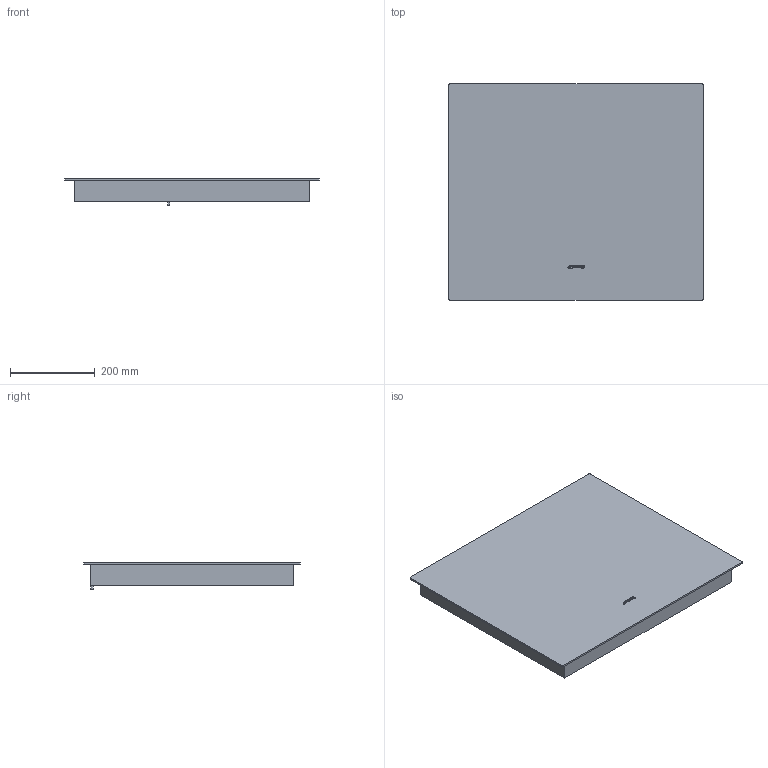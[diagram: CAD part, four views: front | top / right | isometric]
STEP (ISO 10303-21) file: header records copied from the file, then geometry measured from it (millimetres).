
FILE_DESCRIPTION(/* description */ (''),/* implementation_level */ '2;1');
FILE_NAME(/* name */ 'piano se264td.stp',/* time_stamp */ '2018-09-25T09:30:03+02:00',/* author */ (''),/* organization */ (''),/* preprocessor_version */ 'ST-DEVELOPER v16',/* originating_system */ 'SIEMENS PLM Software NX 11.0',/* authorisation */ '');
FILE_SCHEMA (('AUTOMOTIVE_DESIGN { 1 0 10303 214 3 1 1 1 }'));
Length unit declared in the file: millimetre
Products named in the file (1): gobb5B94E1E6lm29
Bounding box: 600 x 510 x 62.62 mm (x, y, z)
Volume: 14529546.8 mm3; surface area: 1258532.3 mm2
Topology: 12 solids, 12 shells, 101 faces, 227 edges, 151 vertices
Faces by surface type: plane 63, cylinder 26, extrusion 11, torus 1
Full cylindrical faces by diameter (mm): 3.37 x6, 5 x2
Entity records: 3100 total; most frequent: CARTESIAN_POINT 771, DIRECTION 438, ORIENTED_EDGE 432, EDGE_CURVE 216, VECTOR 152, VERTEX_POINT 150, AXIS2_PLACEMENT_3D 143, LINE 141
